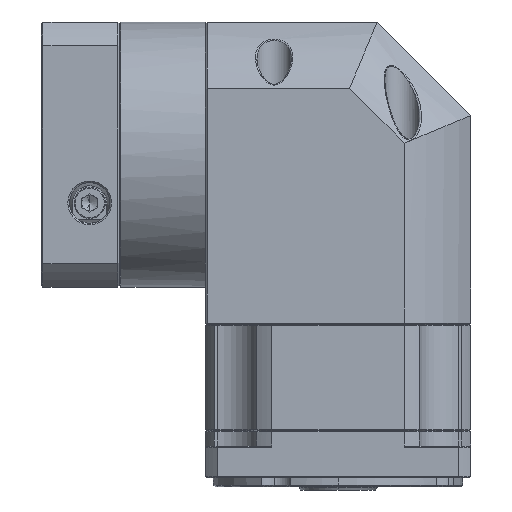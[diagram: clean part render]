
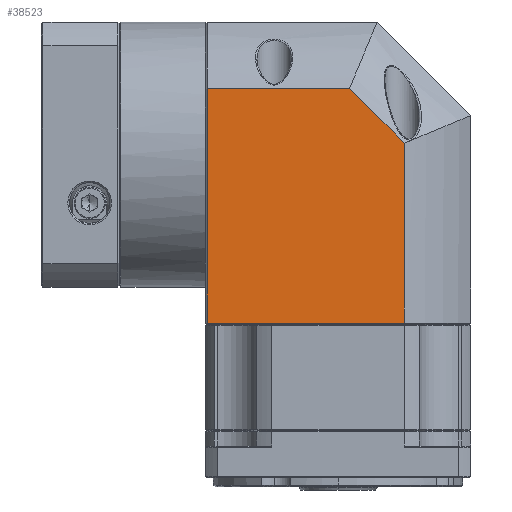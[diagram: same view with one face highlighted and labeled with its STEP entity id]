
A CAD part, left-side view. The second image highlights one B-rep face of the part: STEP entity #38523.
In plain terms, the highlighted planar face has unit normal (-1, 0, 0).
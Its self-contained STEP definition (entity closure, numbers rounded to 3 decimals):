
#1873 = LINE ( 'NONE', #45410, #11580 ) ;
#4555 = DIRECTION ( 'NONE',  ( 0., -1., 0. ) ) ;
#5300 = CARTESIAN_POINT ( 'NONE',  ( -102.869, 17.456, 47.234 ) ) ;
#5871 = DIRECTION ( 'NONE',  ( 0., 0., 1. ) ) ;
#6065 = DIRECTION ( 'NONE',  ( 1., 0., 0. ) ) ;
#9476 = LINE ( 'NONE', #5300, #115581 ) ;
#11580 = VECTOR ( 'NONE', #5871, 1000. ) ;
#17977 = CARTESIAN_POINT ( 'NONE',  ( -102.869, 17.456, 47.234 ) ) ;
#19667 = CARTESIAN_POINT ( 'NONE',  ( -102.869, -0.075, 72.021 ) ) ;
#23911 = CARTESIAN_POINT ( 'NONE',  ( -102.869, 63.139, 47.234 ) ) ;
#25428 = DIRECTION ( 'NONE',  ( 0., 1., 0. ) ) ;
#26278 = DIRECTION ( 'NONE',  ( 0., -1., 0. ) ) ;
#29267 = EDGE_CURVE ( 'NONE', #89745, #128899, #61354, .T. ) ;
#38296 = LINE ( 'NONE', #114503, #118653 ) ;
#38523 = ADVANCED_FACE ( 'NONE', ( #77667 ), #57702, .F. ) ;
#45410 = CARTESIAN_POINT ( 'NONE',  ( -102.869, 63.139, 68.521 ) ) ;
#46186 = DIRECTION ( 'NONE',  ( 0., -0.707, -0.707 ) ) ;
#51615 = CARTESIAN_POINT ( 'NONE',  ( -102.869, -0.075, -27.979 ) ) ;
#55842 = ORIENTED_EDGE ( 'NONE', *, *, #92391, .F. ) ;
#56823 = CARTESIAN_POINT ( 'NONE',  ( -102.869, 63.639, 68.521 ) ) ;
#57702 = PLANE ( 'NONE',  #72187 ) ;
#61354 = LINE ( 'NONE', #19667, #111269 ) ;
#67943 = EDGE_CURVE ( 'NONE', #102539, #128899, #38296, .T. ) ;
#68239 = ORIENTED_EDGE ( 'NONE', *, *, #90352, .F. ) ;
#71387 = DIRECTION ( 'NONE',  ( 0., 0., -1. ) ) ;
#72187 = AXIS2_PLACEMENT_3D ( 'NONE', #56823, #6065, #25428 ) ;
#77667 = FACE_OUTER_BOUND ( 'NONE', #93197, .T. ) ;
#80166 = EDGE_CURVE ( 'NONE', #117107, #89745, #9476, .T. ) ;
#83210 = CARTESIAN_POINT ( 'NONE',  ( -102.869, 63.139, -27.979 ) ) ;
#89745 = VERTEX_POINT ( 'NONE', #102199 ) ;
#90352 = EDGE_CURVE ( 'NONE', #102539, #108467, #1873, .T. ) ;
#92391 = EDGE_CURVE ( 'NONE', #108467, #117107, #123647, .T. ) ;
#93197 = EDGE_LOOP ( 'NONE', ( #133336, #114067, #129797, #55842, #68239 ) ) ;
#96296 = VECTOR ( 'NONE', #26278, 1000. ) ;
#101697 = CARTESIAN_POINT ( 'NONE',  ( -102.869, 63.639, 47.234 ) ) ;
#102199 = CARTESIAN_POINT ( 'NONE',  ( -102.869, -0.075, 29.703 ) ) ;
#102539 = VERTEX_POINT ( 'NONE', #83210 ) ;
#108467 = VERTEX_POINT ( 'NONE', #23911 ) ;
#111269 = VECTOR ( 'NONE', #71387, 1000. ) ;
#114067 = ORIENTED_EDGE ( 'NONE', *, *, #29267, .F. ) ;
#114503 = CARTESIAN_POINT ( 'NONE',  ( -102.869, 63.639, -27.979 ) ) ;
#115581 = VECTOR ( 'NONE', #46186, 1000. ) ;
#117107 = VERTEX_POINT ( 'NONE', #17977 ) ;
#118653 = VECTOR ( 'NONE', #4555, 1000. ) ;
#123647 = LINE ( 'NONE', #101697, #96296 ) ;
#128899 = VERTEX_POINT ( 'NONE', #51615 ) ;
#129797 = ORIENTED_EDGE ( 'NONE', *, *, #80166, .F. ) ;
#133336 = ORIENTED_EDGE ( 'NONE', *, *, #67943, .T. ) ;
